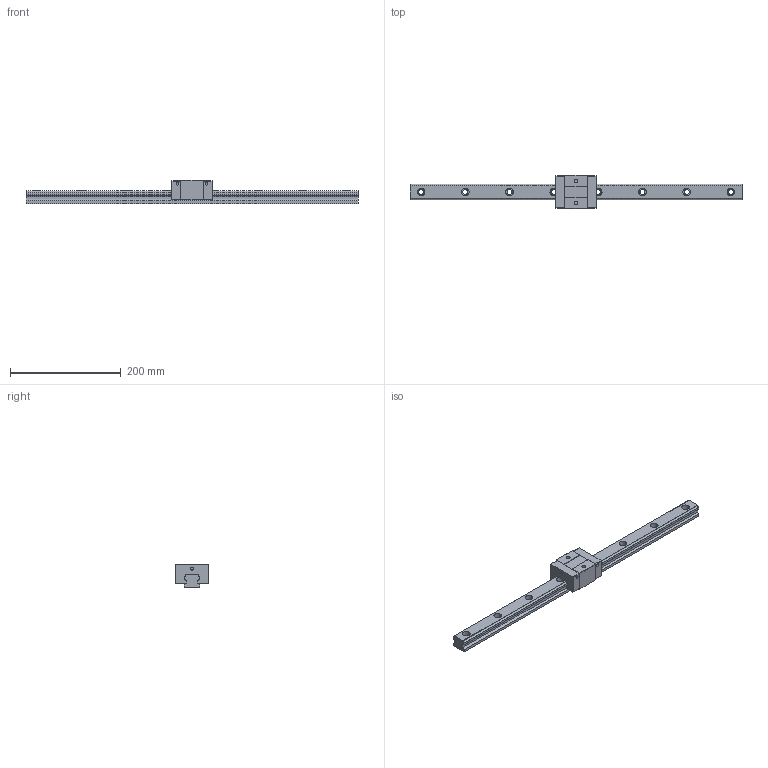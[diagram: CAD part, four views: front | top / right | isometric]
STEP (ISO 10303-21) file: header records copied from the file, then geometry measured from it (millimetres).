
FILE_DESCRIPTION (( 'STEP AP203' ), '1' );
FILE_NAME ('TRS30VS-SU.STEP', '2024-06-26T05:11:18', ( '' ), ( '' ), 'SwSTEP 2.0', 'SolidWorks 2022', '' );
FILE_SCHEMA (( 'CONFIG_CONTROL_DESIGN' ));
Length unit declared in the file: millimetre
Products named in the file (1): TRS30VS-SU
Bounding box: 600 x 60 x 42 mm (x, y, z)
Volume: 442028.6 mm3; surface area: 90491.5 mm2
Topology: 2 solids, 2 shells, 172 faces, 452 edges, 300 vertices
Faces by surface type: plane 88, cylinder 84
Entity records: 5459 total; most frequent: DIRECTION 966, CARTESIAN_POINT 925, ORIENTED_EDGE 904, EDGE_CURVE 452, AXIS2_PLACEMENT_3D 341, VERTEX_POINT 300, LINE 284, VECTOR 284
